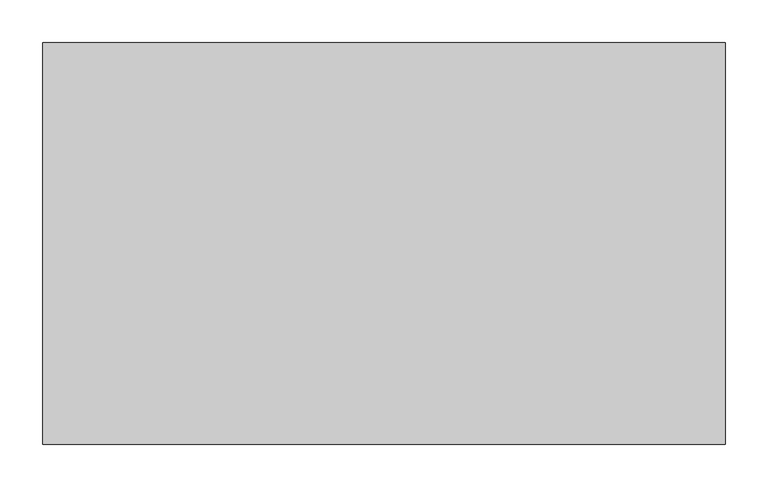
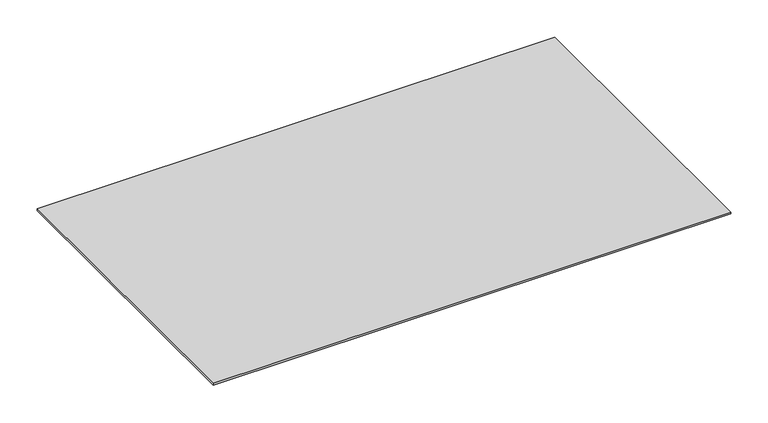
"""IFC4 building model written with IfcOpenShell, lengths in millimetres: proxy geometry, Electrical_Installation_Hager_Blank-Cover-BKAD : Electrical_Installation_Hager_Blank-Cover-BKAD."""

from ifc_helpers import new_model, si_unit, frame, origin, place, context, project, spatial, polyline, outline, extrude, source, transform, mapped, element, save


def electrical_fixtures_c34f3bbd(model_context):
    return source(origin(), model_context, "Body", "SweptSolid", [
        extrude(outline(polyline([(798.0813487, 235.0), (798.0813487, -235.0), (0.0, -235.0), (0.0, 235.0), (798.0813487, 235.0)])), frame((0.0, 0.0, 10.0), z_axis=(0.0, 0.0, 1.0), x_axis=(1.0, 0.0, 0.0)), (0.0, 0.0, 1.0), 3.0),
    ])


if __name__ == "__main__":
    model = new_model("IFC4")
    model_context = context("Model", 3, world=origin())
    ifc_project = project(units=[si_unit("LENGTHUNIT", "METRE", prefix="MILLI")], contexts=[model_context])
    site = spatial("IfcSite", under=ifc_project)
    building = spatial("IfcBuilding", under=site)
    placement = place(None, origin())
    electrical_fixtures_shape = electrical_fixtures_c34f3bbd(model_context)
    element("IfcBuildingElementProxy", 1, Name="Electrical_Installation_Hager_Blank-Cover-BKAD : Electrical_Installation_Hager_Blank-Cover-BKAD", ObjectType="Electrical_Installation_Hager_Blank-Cover-BKAD : Electrical_Installation_Hager_Blank-Cover-BKAD", at=placement, inside=building, context=model_context, shape_type="MappedRepresentation", body=[
        mapped(electrical_fixtures_shape, transform((0.0, 0.0, 0.0), x_axis=(1.0, 0.0, 0.0), y_axis=(0.0, 1.0, 0.0), z_axis=(0.0, 0.0, 1.0))),
    ])
    save(model, "model.ifc")
